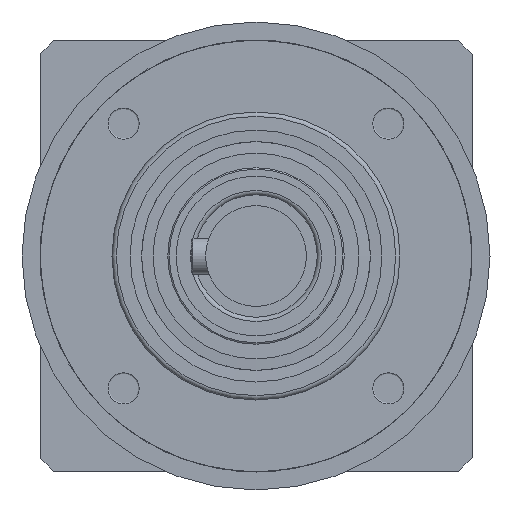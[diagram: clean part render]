
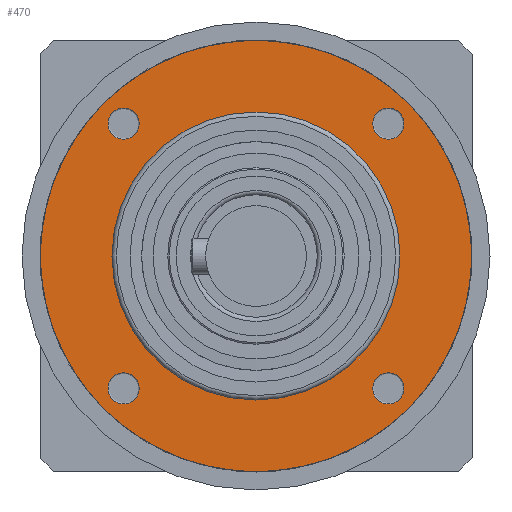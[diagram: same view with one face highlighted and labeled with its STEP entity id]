
A CAD part, left-side view. The second image highlights one B-rep face of the part: STEP entity #470.
In plain terms, the highlighted planar face has unit normal (-1, 0, 0).
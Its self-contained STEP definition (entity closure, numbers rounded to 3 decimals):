
#75=FACE_BOUND('',#712,.T.);
#76=FACE_BOUND('',#713,.T.);
#77=FACE_BOUND('',#714,.T.);
#78=FACE_BOUND('',#715,.T.);
#79=FACE_BOUND('',#716,.T.);
#470=ADVANCED_FACE('',(#75,#76,#77,#78,#79),#593,.T.);
#593=PLANE('',#1964);
#712=EDGE_LOOP('',(#1122));
#713=EDGE_LOOP('',(#1123));
#714=EDGE_LOOP('',(#1124));
#715=EDGE_LOOP('',(#1125));
#716=EDGE_LOOP('',(#1126));
#1122=ORIENTED_EDGE('',*,*,#1636,.T.);
#1123=ORIENTED_EDGE('',*,*,#1637,.T.);
#1124=ORIENTED_EDGE('',*,*,#1638,.T.);
#1125=ORIENTED_EDGE('',*,*,#1639,.T.);
#1126=ORIENTED_EDGE('',*,*,#1640,.T.);
#1458=VERTEX_POINT('',#2867);
#1459=VERTEX_POINT('',#2869);
#1460=VERTEX_POINT('',#2871);
#1461=VERTEX_POINT('',#2873);
#1462=VERTEX_POINT('',#2875);
#1636=EDGE_CURVE('',#1458,#1458,#1808,.T.);
#1637=EDGE_CURVE('',#1459,#1459,#1809,.T.);
#1638=EDGE_CURVE('',#1460,#1460,#1810,.T.);
#1639=EDGE_CURVE('',#1461,#1461,#1811,.T.);
#1640=EDGE_CURVE('',#1462,#1462,#1812,.T.);
#1808=CIRCLE('',#1959,2.175);
#1809=CIRCLE('',#1960,2.175);
#1810=CIRCLE('',#1961,2.175);
#1811=CIRCLE('',#1962,2.175);
#1812=CIRCLE('',#1963,30.);
#1959=AXIS2_PLACEMENT_3D('',#2866,#2290,#2291);
#1960=AXIS2_PLACEMENT_3D('',#2868,#2292,#2293);
#1961=AXIS2_PLACEMENT_3D('',#2870,#2294,#2295);
#1962=AXIS2_PLACEMENT_3D('',#2872,#2296,#2297);
#1963=AXIS2_PLACEMENT_3D('',#2874,#2298,#2299);
#1964=AXIS2_PLACEMENT_3D('',#2876,#2300,#2301);
#2290=DIRECTION('',(1.,0.,0.));
#2291=DIRECTION('',(0.,-0.707,-0.707));
#2292=DIRECTION('',(1.,0.,0.));
#2293=DIRECTION('',(0.,0.707,-0.707));
#2294=DIRECTION('',(1.,0.,0.));
#2295=DIRECTION('',(0.,0.707,0.707));
#2296=DIRECTION('',(1.,0.,0.));
#2297=DIRECTION('',(0.,-0.707,0.707));
#2298=DIRECTION('',(-1.,0.,0.));
#2299=DIRECTION('',(0.,-0.707,0.707));
#2300=DIRECTION('',(-1.,0.,0.));
#2301=DIRECTION('',(0.,-0.707,0.707));
#2866=CARTESIAN_POINT('',(-90.95,-18.385,18.385));
#2867=CARTESIAN_POINT('',(-90.95,-19.923,16.847));
#2868=CARTESIAN_POINT('',(-90.95,-18.385,-18.385));
#2869=CARTESIAN_POINT('',(-90.95,-16.847,-19.923));
#2870=CARTESIAN_POINT('',(-90.95,18.385,-18.385));
#2871=CARTESIAN_POINT('',(-90.95,19.923,-16.847));
#2872=CARTESIAN_POINT('',(-90.95,18.385,18.385));
#2873=CARTESIAN_POINT('',(-90.95,16.847,19.923));
#2874=CARTESIAN_POINT('',(-90.95,0.,0.));
#2875=CARTESIAN_POINT('',(-90.95,-21.213,21.213));
#2876=CARTESIAN_POINT('',(-90.95,0.,0.));
